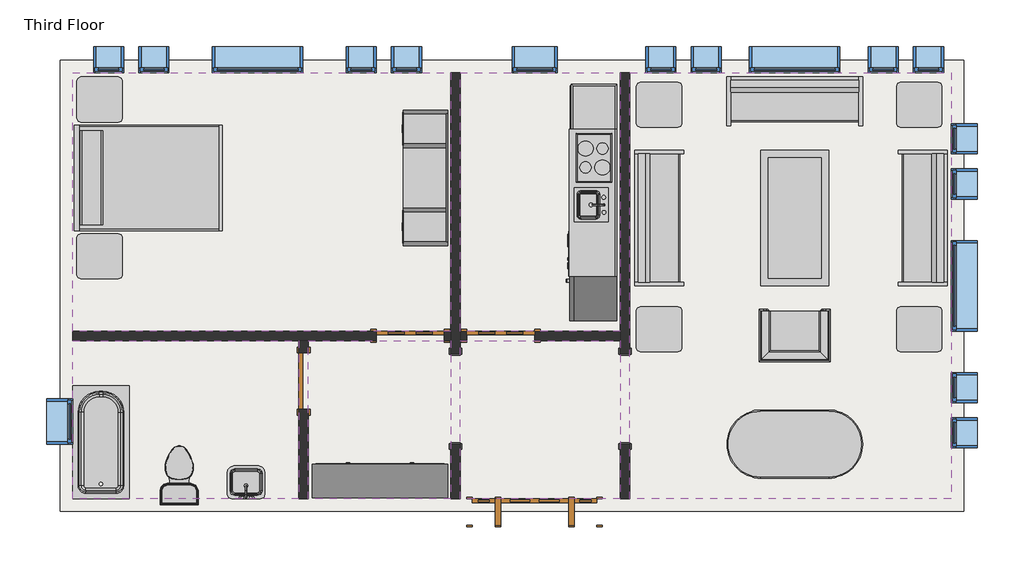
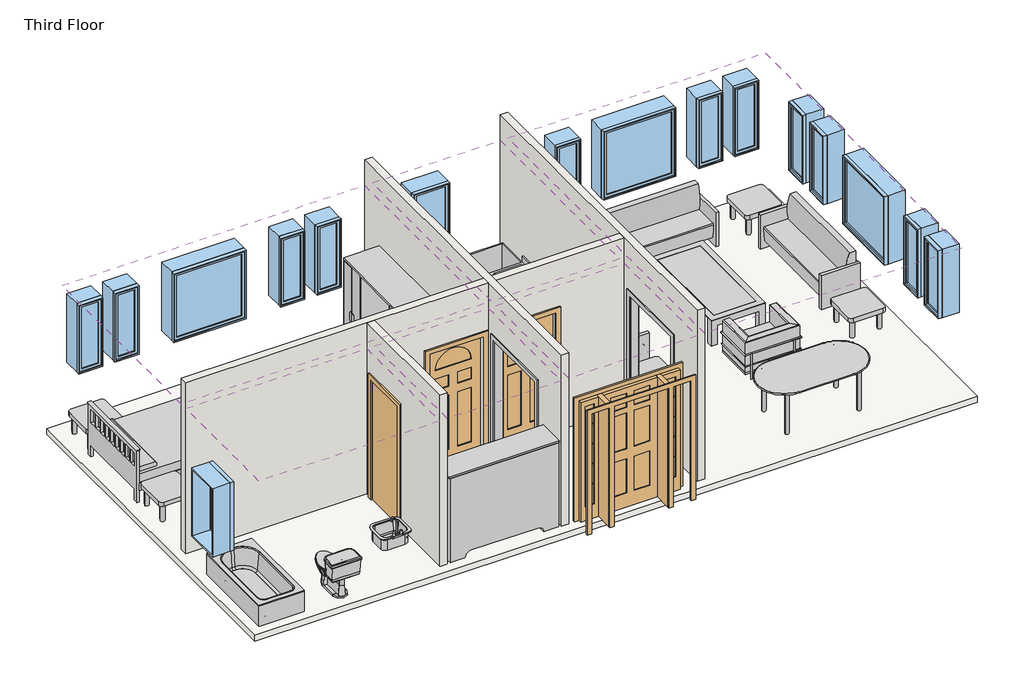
# One storey: 17 windows, 15 furniture elements, 6 coverings, 5 walls, 4 doors, 3 flow terminals, 3 proxies, 1 slab.
"""IFC4 building model written with IfcOpenShell, lengths in millimetres."""

from ifc_helpers import new_model, si_unit, frame, origin, place, context, project, spatial, polyline, outline, extrude, faceted_brep, transform, mapped, element, save
from components import proxy_64a468c4, proxy_f44482cc, door_829da954, door_2e3b4da2, door_4d6c7550, door_dba5aa2e, flow_terminal_0aeb31e3, toilet_domestic_3d_toilet_domestic_3d_f7549cf7, toilet_domestic_3d_toilet_domestic_3d_183bbd19, tub_rectangular_3d_tub_rectangular_3d_0be0b2e8, furniture_096e7f55, chair_corbu_chair_corbu_2764bdef, furniture_7c473f12, furniture_ddc78764, furniture_4ef38d96, furniture_cd93a443, furniture_8c0aa46a, furniture_3a588284, furniture_1befe2a2, window_da97879f, window_d61ef850, window_60baf983, window_6eb97611

model = new_model("IFC4")

# Units and contexts
model_context = context("Model", 3, world=origin())
ifc_project = project(units=[si_unit("LENGTHUNIT", "METRE", prefix="MILLI")], contexts=[model_context])

# Site, building, storey
site = spatial("IfcSite", under=ifc_project)
building = spatial("IfcBuilding", under=site)
storey = spatial("IfcBuildingStorey", under=building, Name="Third Floor", Elevation=6096.0)

# Proxies
placement = place(None, origin())
proxy_shape = proxy_64a468c4(model_context)
element("IfcBuildingElementProxy", 1, Name="Kitchenette - Medium : 8'6\"", ObjectType="Kitchenette - Medium : 8'6\"", at=placement, inside=storey, context=model_context, shape_type="MappedRepresentation", body=[
    mapped(proxy_shape, transform((-3887.7589563, 8837.7956433, 6096.0), x_axis=(0.0, -1.0, 0.0), y_axis=(1.0, 0.0, 0.0), z_axis=(0.0, 0.0, 1.0))),
])
proxy_2_shape = proxy_f44482cc(model_context)
element("IfcBuildingElementProxy", 2, Name="Opening-Cased : 48\" x 84\"", ObjectType="Opening-Cased : 48\" x 84\"", at=placement, inside=storey, context=model_context, shape_type="MappedRepresentation", body=[
    mapped(proxy_2_shape, transform((-3773.4589563, 5882.4203434, 6096.0), x_axis=(0.0, 1.0, 0.0), y_axis=(-1.0, 0.0, 0.0), z_axis=(0.0, 0.0, 1.0))),
])
element("IfcBuildingElementProxy", 3, Name="Opening-Cased : 48\" x 84\"", ObjectType="Opening-Cased : 48\" x 84\"", at=placement, inside=storey, context=model_context, shape_type="MappedRepresentation", body=[
    mapped(proxy_2_shape, transform((-6059.4589563, 5866.04303, 6096.0), x_axis=(0.0, -1.0, 0.0), y_axis=(1.0, 0.0, 0.0), z_axis=(0.0, 0.0, 1.0))),
])

# Coverings
element("IfcCovering", 4, ObjectType="GWB on Mtl. Stud", at=placement, inside=storey, context=model_context, shape_type="SweptSolid", body=[
    extrude(outline(polyline([(-11217.2464563, 10270.0191867), (-6122.9589563, 10270.0191867), (-6122.9589563, 6787.0441867), (-11217.2464563, 6787.0441867), (-11217.2464563, 10270.0191867)])), frame((0.0, 0.0, 8686.8), z_axis=(0.0, 0.0, 1.0), x_axis=(1.0, 0.0, 0.0)), (0.0, 0.0, 1.0), 107.95),
])
element("IfcCovering", 5, ObjectType="GWB on Mtl. Stud", at=placement, inside=storey, context=model_context, shape_type="SweptSolid", body=[
    extrude(outline(polyline([(-5995.9589563, 6787.0441867), (-5995.9589563, 10270.0191867), (-3836.9589563, 10270.0191867), (-3836.9589563, 6787.0441867), (-5995.9589563, 6787.0441867)])), frame((0.0, 0.0, 8686.8), z_axis=(0.0, 0.0, 1.0), x_axis=(1.0, 0.0, 0.0)), (0.0, 0.0, 1.0), 107.95),
])
element("IfcCovering", 6, ObjectType="GWB on Mtl. Stud", at=placement, inside=storey, context=model_context, shape_type="SweptSolid", body=[
    extrude(outline(polyline([(-3709.9589563, 4526.4441867), (-3709.9589563, 10270.0191867), (622.3285437, 10270.0191867), (622.3285437, 4526.4441867), (-3709.9589563, 4526.4441867)])), frame((0.0, 0.0, 8686.8), z_axis=(0.0, 0.0, 1.0), x_axis=(1.0, 0.0, 0.0)), (0.0, 0.0, 1.0), 107.95),
])
element("IfcCovering", 7, ObjectType="GWB on Mtl. Stud", at=placement, inside=storey, context=model_context, shape_type="SweptSolid", body=[
    extrude(outline(polyline([(-3836.9589563, 4526.4441867), (-5995.9589563, 4526.4441867), (-5995.9589563, 6660.0441867), (-3836.9589563, 6660.0441867), (-3836.9589563, 4526.4441867)])), frame((0.0, 0.0, 8686.8), z_axis=(0.0, 0.0, 1.0), x_axis=(1.0, 0.0, 0.0)), (0.0, 0.0, 1.0), 107.95),
])
element("IfcCovering", 8, ObjectType="GWB on Mtl. Stud", at=placement, inside=storey, context=model_context, shape_type="SweptSolid", body=[
    extrude(outline(polyline([(-6122.9589563, 4526.4441867), (-8042.2464563, 4526.4441867), (-8042.2464563, 6660.0441867), (-6122.9589563, 6660.0441867), (-6122.9589563, 4526.4441867)])), frame((0.0, 0.0, 8686.8), z_axis=(0.0, 0.0, 1.0), x_axis=(1.0, 0.0, 0.0)), (0.0, 0.0, 1.0), 107.95),
])
element("IfcCovering", 9, ObjectType="GWB on Mtl. Stud", at=placement, inside=storey, context=model_context, shape_type="SweptSolid", body=[
    extrude(outline(polyline([(-8169.2464563, 6660.0441867), (-8169.2464563, 4526.4441867), (-11217.2464563, 4526.4441867), (-11217.2464563, 6660.0441867), (-8169.2464563, 6660.0441867)])), frame((0.0, 0.0, 8686.8), z_axis=(0.0, 0.0, 1.0), x_axis=(1.0, 0.0, 0.0)), (0.0, 0.0, 1.0), 107.95),
])

# Doors
door_shape = door_829da954(model_context)
element("IfcDoor", 10, ObjectType="Single-Decorative 2 : 36\" x 84\"", at=placement, inside=storey, context=model_context, shape_type="MappedRepresentation", body=[
    mapped(door_shape, transform((-5449.8589563, 6723.5441867, 6096.0), x_axis=(-1.0, 0.0, 0.0), y_axis=(0.0, -1.0, 0.0), z_axis=(0.0, 0.0, 1.0))),
])
door_2_shape = door_2e3b4da2(model_context)
element("IfcDoor", 11, ObjectType="Single-Decorative 2 : 36\" x 84\"", at=placement, inside=storey, context=model_context, shape_type="MappedRepresentation", body=[
    mapped(door_2_shape, transform((-6669.0589563, 6723.5441867, 6096.0), x_axis=(1.0, 0.0, 0.0), y_axis=(0.0, 1.0, 0.0), z_axis=(0.0, 0.0, 1.0))),
])
door_3_shape = door_4d6c7550(model_context)
element("IfcDoor", 12, ObjectType="Single-Flush : 30\" x 84\"", at=placement, inside=storey, context=model_context, shape_type="MappedRepresentation", body=[
    mapped(door_3_shape, transform((-8105.7464563, 6113.9441867, 6096.0), x_axis=(0.0, 1.0, 0.0), y_axis=(-1.0, 0.0, 0.0), z_axis=(0.0, 0.0, 1.0))),
])
door_4_shape = door_dba5aa2e(model_context)
element("IfcDoor", 13, ObjectType="Single-Raised Panel with Sidelights : 36\" x 84\"", at=placement, inside=storey, context=model_context, shape_type="MappedRepresentation", body=[
    mapped(door_4_shape, transform((-4992.6589563, 4350.2316867, 6096.0), x_axis=(-1.0, 0.0, 0.0), y_axis=(0.0, -1.0, 0.0), z_axis=(0.0, 0.0, 1.0))),
])

# Flow terminals
flow_terminal_shape = flow_terminal_0aeb31e3(model_context)
element("IfcFlowTerminal", 14, ObjectType="Sink Vanity-Square : 24\" x 19\"", at=placement, inside=storey, context=model_context, shape_type="MappedRepresentation", body=[
    mapped(flow_terminal_shape, transform((-8864.7572157, 4706.5895878, 6096.0), x_axis=(-1.0, 0.0, 0.0), y_axis=(0.0, -1.0, 0.0), z_axis=(0.0, 0.0, 1.0))),
])
toilet_domestic_3d_toilet_domestic_3d_shape = toilet_domestic_3d_toilet_domestic_3d_f7549cf7(model_context)
toilet_domestic_3d_toilet_domestic_3d_2_shape = toilet_domestic_3d_toilet_domestic_3d_183bbd19(model_context)
element("IfcFlowTerminal", 15, ObjectType="Toilet-Domestic-3D : Toilet-Domestic-3D", at=placement, inside=storey, context=model_context, shape_type="MappedRepresentation", body=[
    mapped(toilet_domestic_3d_toilet_domestic_3d_shape, transform((-9782.1466587, 4940.866411, 6096.0), x_axis=(-1.0000000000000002, 0.0, 0.0), y_axis=(0.0, -1.0000000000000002, 0.0), z_axis=(0.0, 0.0, 1.0))),
    mapped(toilet_domestic_3d_toilet_domestic_3d_2_shape, transform((-9782.1466587, 4940.866411, 6096.0), x_axis=(-1.0000000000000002, 0.0, 0.0), y_axis=(0.0, -1.0000000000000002, 0.0), z_axis=(0.0, 0.0, 1.0))),
])
tub_rectangular_3d_tub_rectangular_3d_shape = tub_rectangular_3d_tub_rectangular_3d_0be0b2e8(model_context)
element("IfcFlowTerminal", 16, ObjectType="Tub-Rectangular-3D : Tub-Rectangular-3D", at=placement, inside=storey, context=model_context, shape_type="MappedRepresentation", body=[
    mapped(tub_rectangular_3d_tub_rectangular_3d_shape, transform((-11393.4589563, 5637.0471554, 6096.0), x_axis=(0.0, 1.0, 0.0), y_axis=(-1.0, 0.0, 0.0), z_axis=(0.0, 0.0, 1.0))),
])

# Furniture
furniture_shape = furniture_096e7f55(model_context)
element("IfcFurniture", 17, ObjectType="Bed-Shaker : Double 56\" x 78\"", at=placement, inside=storey, context=model_context, shape_type="MappedRepresentation", body=[
    mapped(furniture_shape, transform((-11183.1982802, 8871.8755561, 6096.0), x_axis=(0.0, 1.0, 0.0), y_axis=(-1.0, 0.0, 0.0), z_axis=(0.0, 0.0, 1.0))),
])
chair_corbu_chair_corbu_shape = chair_corbu_chair_corbu_2764bdef(model_context)
element("IfcFurniture", 18, ObjectType="Chair-Corbu : Chair-Corbu", at=placement, inside=storey, context=model_context, shape_type="MappedRepresentation", body=[
    mapped(chair_corbu_chair_corbu_shape, transform((-914.0851858, 7193.4962359, 6096.0), x_axis=(-1.0, 0.0, 0.0), y_axis=(0.0, -1.0, 0.0), z_axis=(0.0, 0.0, 1.0))),
])
furniture_2_shape = furniture_7c473f12(model_context)
element("IfcFurniture", 19, ObjectType="Dresser : 72\" x 60\" x 18\"", at=placement, inside=storey, context=model_context, shape_type="MappedRepresentation", body=[
    mapped(furniture_2_shape, transform((-7344.6522161, 4404.5812326, 6096.0), x_axis=(-1.0, 0.0, 0.0), y_axis=(0.0, -1.0, 0.0), z_axis=(0.0, 0.0, 1.0))),
])
furniture_3_shape = furniture_ddc78764(model_context)
element("IfcFurniture", 20, ObjectType="Entertainment Center : 72\" x 72\" x 24\"", at=placement, inside=storey, context=model_context, shape_type="MappedRepresentation", body=[
    mapped(furniture_3_shape, transform((-6059.4589563, 8852.8255561, 6096.0), x_axis=(0.0, -1.0, 0.0), y_axis=(1.0, 0.0, 0.0), z_axis=(0.0, 0.0, 1.0))),
])
furniture_4_shape = furniture_4ef38d96(model_context)
element("IfcFurniture", 21, ObjectType="Sofa : 72\"", at=placement, inside=storey, context=model_context, shape_type="MappedRepresentation", body=[
    mapped(furniture_4_shape, transform((-1557.8294481, 9741.2775883, 6096.0), x_axis=(1.0, 0.0, 0.0), y_axis=(0.0, 1.0, 0.0), z_axis=(0.0, 0.0, 1.0))),
])
element("IfcFurniture", 22, ObjectType="Sofa : 72\"", at=placement, inside=storey, context=model_context, shape_type="MappedRepresentation", body=[
    mapped(furniture_4_shape, transform((93.5869453, 8383.0021785, 6096.0), x_axis=(0.0, -1.0, 0.0), y_axis=(1.0, 0.0, 0.0), z_axis=(0.0, 0.0, 1.0))),
])
element("IfcFurniture", 23, ObjectType="Sofa : 72\"", at=placement, inside=storey, context=model_context, shape_type="MappedRepresentation", body=[
    mapped(furniture_4_shape, transform((-3170.104858, 8242.2611949, 6096.0), x_axis=(0.0, 1.0, 0.0), y_axis=(-1.0, 0.0, 0.0), z_axis=(0.0, 0.0, 1.0))),
])
furniture_5_shape = furniture_cd93a443(model_context)
element("IfcFurniture", 24, ObjectType="Table-Coffee : 36\" x 72\" x 18\"", at=placement, inside=storey, context=model_context, shape_type="MappedRepresentation", body=[
    mapped(furniture_5_shape, transform((-1582.6700341, 8330.8974534, 6096.0), x_axis=(0.0, -1.0, 0.0), y_axis=(1.0, 0.0, 0.0), z_axis=(0.0, 0.0, 1.0))),
])
furniture_6_shape = furniture_8c0aa46a(model_context)
element("IfcFurniture", 25, ObjectType="Table-Dining Oval : 36\" x 72\"", at=placement, inside=storey, context=model_context, shape_type="MappedRepresentation", body=[
    mapped(furniture_6_shape, transform((-1085.6392842, 5622.7300473, 6096.0), x_axis=(1.0, 0.0, 0.0), y_axis=(0.0, 1.0, 0.0), z_axis=(0.0, 0.0, 1.0))),
])
furniture_7_shape = furniture_3a588284(model_context)
element("IfcFurniture", 26, ObjectType="Table-End : 24\" x 24\"", at=placement, inside=storey, context=model_context, shape_type="MappedRepresentation", body=[
    mapped(furniture_7_shape, transform((-119.5925866, 9684.2316867, 6096.0), x_axis=(1.0, 0.0, 0.0), y_axis=(0.0, 1.0, 0.0), z_axis=(0.0, 0.0, 1.0))),
])
element("IfcFurniture", 27, ObjectType="Table-End : 24\" x 24\"", at=placement, inside=storey, context=model_context, shape_type="MappedRepresentation", body=[
    mapped(furniture_7_shape, transform((-3624.7925866, 9684.2316867, 6096.0), x_axis=(1.0, 0.0, 0.0), y_axis=(0.0, 1.0, 0.0), z_axis=(0.0, 0.0, 1.0))),
])
element("IfcFurniture", 28, ObjectType="Table-End : 24\" x 24\"", at=placement, inside=storey, context=model_context, shape_type="MappedRepresentation", body=[
    mapped(furniture_7_shape, transform((-3624.7925866, 6660.0441867, 6096.0), x_axis=(1.0, 0.0, 0.0), y_axis=(0.0, 1.0, 0.0), z_axis=(0.0, 0.0, 1.0))),
])
element("IfcFurniture", 29, ObjectType="Table-End : 24\" x 24\"", at=placement, inside=storey, context=model_context, shape_type="MappedRepresentation", body=[
    mapped(furniture_7_shape, transform((-119.5925866, 6660.0441867, 6096.0), x_axis=(1.0, 0.0, 0.0), y_axis=(0.0, 1.0, 0.0), z_axis=(0.0, 0.0, 1.0))),
])
element("IfcFurniture", 30, ObjectType="Table-End : 24\" x 24\"", at=placement, inside=storey, context=model_context, shape_type="MappedRepresentation", body=[
    mapped(furniture_7_shape, transform((-11164.2346356, 9756.0737357, 6096.0), x_axis=(1.0, 0.0, 0.0), y_axis=(0.0, 1.0, 0.0), z_axis=(0.0, 0.0, 1.0))),
])
furniture_8_shape = furniture_1befe2a2(model_context)
element("IfcFurniture", 31, ObjectType="Table-End : 24\" x 24\"", at=placement, inside=storey, context=model_context, shape_type="MappedRepresentation", body=[
    mapped(furniture_8_shape, transform((-11164.2346356, 7949.5773764, 6096.0), x_axis=(1.0, 0.0, 0.0), y_axis=(0.0, 1.0, 0.0), z_axis=(0.0, 0.0, 1.0))),
])

# Slab
element("IfcSlab", 32, ObjectType="LW Concrete on Metal Deck", at=placement, inside=storey, context=model_context, shape_type="SweptSolid", body=[
    extrude(outline(polyline([(787.4285437, 10435.1191867), (787.4285437, 4361.3441867), (-11382.3464563, 4361.3441867), (-11382.3464563, 10435.1191867), (787.4285437, 10435.1191867)])), frame((0.0, 0.0, 5991.225), z_axis=(0.0, 0.0, 1.0), x_axis=(1.0, 0.0, 0.0)), (0.0, 0.0, 1.0), 104.775),
])

# Walls
element("IfcWall", 33, ObjectType="Interior - 5\" Partition (2-hr)", at=placement, inside=storey, context=model_context, shape_type="Brep", body=[
    faceted_brep([(-3836.9589563, 10270.0191867, 6096.0), (-3836.9589563, 6787.0441867, 6096.0), (-3836.9589563, 6660.0441867, 6096.0), (-3836.9589563, 6483.8316867, 6096.0), (-3836.9589563, 6483.8316867, 8229.6), (-3836.9589563, 5264.6316867, 8229.6), (-3836.9589563, 5264.6316867, 6096.0), (-3836.9589563, 4526.4441867, 6096.0), (-3836.9589563, 4526.4441867, 9144.0), (-3836.9589563, 6660.0441867, 9144.0), (-3836.9589563, 6787.0441867, 9144.0), (-3836.9589563, 10270.0191867, 9144.0), (-3709.9589563, 6483.8316867, 8229.6), (-3709.9589563, 6483.8316867, 6096.0), (-3709.9589563, 10270.0191867, 6096.0), (-3709.9589563, 10270.0191867, 9144.0), (-3709.9589563, 4526.4441867, 9144.0), (-3709.9589563, 4526.4441867, 6096.0), (-3709.9589563, 5264.6316867, 6096.0), (-3709.9589563, 5264.6316867, 8229.6)], [[[0, 1, 2, 3, 4, 5, 6, 7, 8, 9, 10, 11]], [[12, 13, 14, 15, 16, 17, 18, 19]], [[14, 13, 3, 2, 1, 0]], [[18, 17, 7, 6]], [[11, 10, 9, 8, 16, 15]], [[0, 11, 15, 14]], [[8, 7, 17, 16]], [[6, 5, 19, 18]], [[4, 3, 13, 12]], [[5, 4, 12, 19]]]),
])
element("IfcWall", 34, ObjectType="Interior - 5\" Partition (2-hr)", at=placement, inside=storey, context=model_context, shape_type="Brep", body=[
    faceted_brep([(-6122.9589563, 5264.6316867, 8229.6), (-6122.9589563, 5264.6316867, 6096.0), (-6122.9589563, 4526.4441867, 6096.0), (-6122.9589563, 4526.4441867, 9144.0), (-6122.9589563, 6660.0441867, 9144.0), (-6122.9589563, 6787.0441867, 9144.0), (-6122.9589563, 10270.0191867, 9144.0), (-6122.9589563, 10270.0191867, 6096.0), (-6122.9589563, 6787.0441867, 6096.0), (-6122.9589563, 6660.0441867, 6096.0), (-6122.9589563, 6483.8316867, 6096.0), (-6122.9589563, 6483.8316867, 8229.6), (-5995.9589563, 4526.4441867, 6096.0), (-5995.9589563, 5264.6316867, 6096.0), (-5995.9589563, 5264.6316867, 8229.6), (-5995.9589563, 6483.8316867, 8229.6), (-5995.9589563, 6483.8316867, 6096.0), (-5995.9589563, 6660.0441867, 6096.0), (-5995.9589563, 6787.0441867, 6096.0), (-5995.9589563, 10270.0191867, 6096.0), (-5995.9589563, 10270.0191867, 9144.0), (-5995.9589563, 6787.0441867, 9144.0), (-5995.9589563, 6660.0441867, 9144.0), (-5995.9589563, 4526.4441867, 9144.0)], [[[0, 1, 2, 3, 4, 5, 6, 7, 8, 9, 10, 11]], [[12, 13, 14, 15, 16, 17, 18, 19, 20, 21, 22, 23]], [[2, 1, 13, 12]], [[10, 9, 8, 7, 19, 18, 17, 16]], [[6, 5, 4, 3, 23, 22, 21, 20]], [[7, 6, 20, 19]], [[3, 2, 12, 23]], [[16, 15, 11, 10]], [[14, 13, 1, 0]], [[15, 14, 0, 11]]]),
])
element("IfcWall", 35, ObjectType="Interior - 5\" Partition (2-hr)", at=placement, inside=storey, context=model_context, shape_type="Brep", body=[
    faceted_brep([(-6211.8589563, 6660.0441867, 8229.6), (-6211.8589563, 6660.0441867, 6096.0), (-6122.9589563, 6660.0441867, 6096.0), (-6122.9589563, 6660.0441867, 9144.0), (-8042.2464563, 6660.0441867, 9144.0), (-8169.2464563, 6660.0441867, 9144.0), (-11217.2464563, 6660.0441867, 9144.0), (-11217.2464563, 6660.0441867, 6096.0), (-8169.2464563, 6660.0441867, 6096.0), (-8042.2464563, 6660.0441867, 6096.0), (-7126.2589563, 6660.0441867, 6096.0), (-7126.2589563, 6660.0441867, 8229.6), (-6122.9589563, 6787.0441867, 6096.0), (-6211.8589563, 6787.0441867, 6096.0), (-6211.8589563, 6787.0441867, 8229.6), (-7126.2589563, 6787.0441867, 8229.6), (-7126.2589563, 6787.0441867, 6096.0), (-11217.2464563, 6787.0441867, 6096.0), (-11217.2464563, 6787.0441867, 9144.0), (-6122.9589563, 6787.0441867, 9144.0)], [[[0, 1, 2, 3, 4, 5, 6, 7, 8, 9, 10, 11]], [[12, 13, 14, 15, 16, 17, 18, 19]], [[2, 1, 13, 12]], [[10, 9, 8, 7, 17, 16]], [[6, 5, 4, 3, 19, 18]], [[3, 2, 12, 19]], [[7, 6, 18, 17]], [[14, 13, 1, 0]], [[15, 14, 0, 11]], [[16, 15, 11, 10]]]),
])
element("IfcWall", 36, ObjectType="Interior - 5\" Partition (2-hr)", at=placement, inside=storey, context=model_context, shape_type="SweptSolid", body=[
    extrude(outline(polyline([(6660.0441867, 6096.0), (6494.9441867, 6096.0), (6494.9441867, 8229.6), (5732.9441867, 8229.6), (5732.9441867, 6096.0), (4526.4441867, 6096.0), (4526.4441867, 9144.0), (6660.0441867, 9144.0), (6660.0441867, 6096.0)])), frame((-8169.2464563, 0.0, 0.0), z_axis=(1.0, 0.0, 0.0), x_axis=(0.0, 1.0, 0.0)), (0.0, 0.0, 1.0), 127.0),
])
element("IfcWall", 37, ObjectType="Interior - 5\" Partition (2-hr)", at=placement, inside=storey, context=model_context, shape_type="SweptSolid", body=[
    extrude(outline(polyline([(6096.0, -5995.9589563), (6096.0, -5907.0589563), (8229.6, -5907.0589563), (8229.6, -4992.6589563), (6096.0, -4992.6589563), (6096.0, -3836.9589563), (9144.0, -3836.9589563), (9144.0, -5995.9589563), (6096.0, -5995.9589563)])), frame((0.0, 6660.0441867, 0.0), z_axis=(0.0, 1.0, 0.0), x_axis=(0.0, 0.0, 1.0)), (0.0, 0.0, 1.0), 127.0),
])

# Windows
window_shape = window_da97879f(model_context)
element("IfcWindow", 38, ObjectType="Fixed : 16\" x 48\"", at=placement, inside=storey, context=model_context, shape_type="MappedRepresentation", body=[
    mapped(window_shape, transform((-10771.1589563, 10446.2316867, 6096.0), x_axis=(-1.0, 0.0, 0.0), y_axis=(0.0, -1.0, 0.0), z_axis=(0.0, 0.0, 1.0))),
])
element("IfcWindow", 39, ObjectType="Fixed : 16\" x 48\"", at=placement, inside=storey, context=model_context, shape_type="MappedRepresentation", body=[
    mapped(window_shape, transform((-10161.5589563, 10446.2316867, 6096.0), x_axis=(-1.0, 0.0, 0.0), y_axis=(0.0, -1.0, 0.0), z_axis=(0.0, 0.0, 1.0))),
])
element("IfcWindow", 40, ObjectType="Fixed : 16\" x 48\"", at=placement, inside=storey, context=model_context, shape_type="MappedRepresentation", body=[
    mapped(window_shape, transform((-3328.9589563, 10446.2316867, 6096.0), x_axis=(-1.0, 0.0, 0.0), y_axis=(0.0, -1.0, 0.0), z_axis=(0.0, 0.0, 1.0))),
])
element("IfcWindow", 41, ObjectType="Fixed : 16\" x 48\"", at=placement, inside=storey, context=model_context, shape_type="MappedRepresentation", body=[
    mapped(window_shape, transform((-2719.3589563, 10446.2316867, 6096.0), x_axis=(-1.0, 0.0, 0.0), y_axis=(0.0, -1.0, 0.0), z_axis=(0.0, 0.0, 1.0))),
])
element("IfcWindow", 42, ObjectType="Fixed : 16\" x 48\"", at=placement, inside=storey, context=model_context, shape_type="MappedRepresentation", body=[
    mapped(window_shape, transform((798.5410437, 9417.5316867, 6096.0), x_axis=(0.0, 1.0, 0.0), y_axis=(-1.0, 0.0, 0.0), z_axis=(0.0, 0.0, 1.0))),
])
element("IfcWindow", 43, ObjectType="Fixed : 16\" x 48\"", at=placement, inside=storey, context=model_context, shape_type="MappedRepresentation", body=[
    mapped(window_shape, transform((798.5410437, 8807.9316867, 6096.0), x_axis=(0.0, 1.0, 0.0), y_axis=(-1.0, 0.0, 0.0), z_axis=(0.0, 0.0, 1.0))),
])
window_2_shape = window_d61ef850(model_context)
element("IfcWindow", 44, ObjectType="Fixed : 16\" x 48\"", at=placement, inside=storey, context=model_context, shape_type="MappedRepresentation", body=[
    mapped(window_2_shape, transform((-6681.7589563, 10446.2316867, 6096.0), x_axis=(1.0, 0.0, 0.0), y_axis=(0.0, 1.0, 0.0), z_axis=(0.0, 0.0, 1.0))),
])
element("IfcWindow", 45, ObjectType="Fixed : 16\" x 48\"", at=placement, inside=storey, context=model_context, shape_type="MappedRepresentation", body=[
    mapped(window_2_shape, transform((-7291.3589563, 10446.2316867, 6096.0), x_axis=(1.0, 0.0, 0.0), y_axis=(0.0, 1.0, 0.0), z_axis=(0.0, 0.0, 1.0))),
])
element("IfcWindow", 46, ObjectType="Fixed : 16\" x 48\"", at=placement, inside=storey, context=model_context, shape_type="MappedRepresentation", body=[
    mapped(window_2_shape, transform((354.0410437, 10446.2316867, 6096.0), x_axis=(1.0, 0.0, 0.0), y_axis=(0.0, 1.0, 0.0), z_axis=(0.0, 0.0, 1.0))),
])
element("IfcWindow", 47, ObjectType="Fixed : 16\" x 48\"", at=placement, inside=storey, context=model_context, shape_type="MappedRepresentation", body=[
    mapped(window_2_shape, transform((-255.5589563, 10446.2316867, 6096.0), x_axis=(1.0, 0.0, 0.0), y_axis=(0.0, 1.0, 0.0), z_axis=(0.0, 0.0, 1.0))),
])
element("IfcWindow", 48, ObjectType="Fixed : 16\" x 48\"", at=placement, inside=storey, context=model_context, shape_type="MappedRepresentation", body=[
    mapped(window_2_shape, transform((798.5410437, 5378.9316867, 6096.0), x_axis=(0.0, -1.0, 0.0), y_axis=(1.0, 0.0, 0.0), z_axis=(0.0, 0.0, 1.0))),
])
element("IfcWindow", 49, ObjectType="Fixed : 16\" x 48\"", at=placement, inside=storey, context=model_context, shape_type="MappedRepresentation", body=[
    mapped(window_2_shape, transform((798.5410437, 5988.5316867, 6096.0), x_axis=(0.0, -1.0, 0.0), y_axis=(1.0, 0.0, 0.0), z_axis=(0.0, 0.0, 1.0))),
])
window_3_shape = window_60baf983(model_context)
element("IfcWindow", 50, ObjectType="Fixed : 24\" x 48\"", at=placement, inside=storey, context=model_context, shape_type="MappedRepresentation", body=[
    mapped(window_3_shape, transform((-5030.7589563, 10446.2316867, 6096.0), x_axis=(-1.0, 0.0, 0.0), y_axis=(0.0, -1.0, 0.0), z_axis=(0.0, 0.0, 1.0))),
])
element("IfcWindow", 51, ObjectType="Fixed : 24\" x 48\"", at=placement, inside=storey, context=model_context, shape_type="MappedRepresentation", body=[
    mapped(window_3_shape, transform((-11393.4589563, 5531.3316867, 6096.0), x_axis=(0.0, -1.0, 0.0), y_axis=(1.0, 0.0, 0.0), z_axis=(0.0, 0.0, 1.0))),
])
window_4_shape = window_6eb97611(model_context)
element("IfcWindow", 52, ObjectType="Fixed : 48\" x 48\"", at=placement, inside=storey, context=model_context, shape_type="MappedRepresentation", body=[
    mapped(window_4_shape, transform((-8764.5589563, 10446.2316867, 6096.0), x_axis=(-1.0, 0.0, 0.0), y_axis=(0.0, -1.0, 0.0), z_axis=(0.0, 0.0, 1.0))),
])
element("IfcWindow", 53, ObjectType="Fixed : 48\" x 48\"", at=placement, inside=storey, context=model_context, shape_type="MappedRepresentation", body=[
    mapped(window_4_shape, transform((-1525.5589563, 10446.2316867, 6096.0), x_axis=(-1.0, 0.0, 0.0), y_axis=(0.0, -1.0, 0.0), z_axis=(0.0, 0.0, 1.0))),
])
element("IfcWindow", 54, ObjectType="Fixed : 48\" x 48\"", at=placement, inside=storey, context=model_context, shape_type="MappedRepresentation", body=[
    mapped(window_4_shape, transform((798.5410437, 7436.3316867, 6096.0), x_axis=(0.0, 1.0, 0.0), y_axis=(-1.0, 0.0, 0.0), z_axis=(0.0, 0.0, 1.0))),
])

save(model, "model.ifc")
